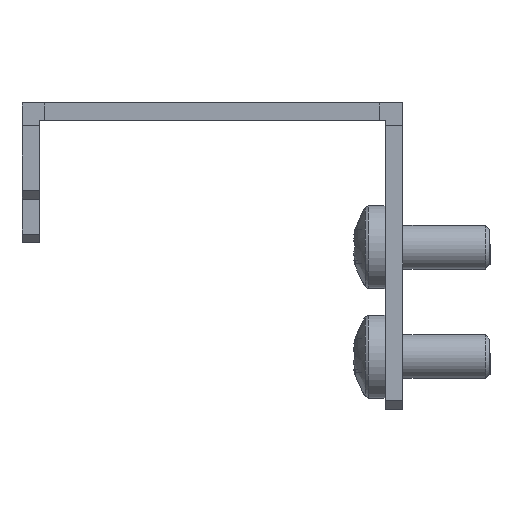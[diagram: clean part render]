
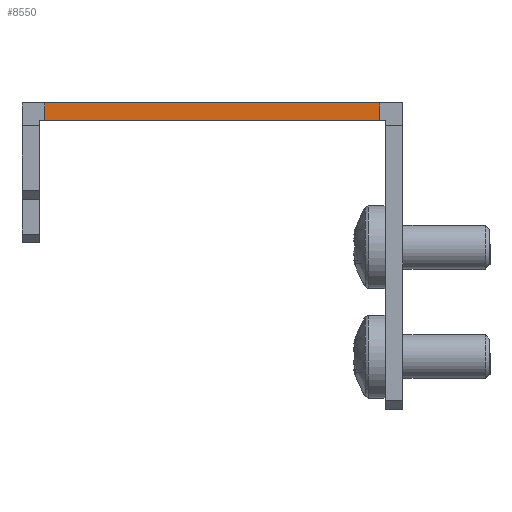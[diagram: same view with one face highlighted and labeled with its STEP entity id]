
A CAD part, left-side view. The second image highlights one B-rep face of the part: STEP entity #8550.
In plain terms, the highlighted planar face has unit normal (-1, 0, 0) as drawn and (1, 0, 0) by its records, which use the part's own axes.
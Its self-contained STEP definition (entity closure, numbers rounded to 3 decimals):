
#5970 = VERTEX_POINT('',#5971);
#5971 = CARTESIAN_POINT('',(281.,19.15,-2.));
#5977 = EDGE_CURVE('',#5978,#5970,#5980,.T.);
#5978 = VERTEX_POINT('',#5979);
#5979 = CARTESIAN_POINT('',(281.,-19.15,-2.));
#5980 = LINE('',#5981,#5982);
#5981 = CARTESIAN_POINT('',(281.,-21.75,-2.));
#5982 = VECTOR('',#5983,1.);
#5983 = DIRECTION('',(0.,1.,0.));
#8270 = VERTEX_POINT('',#8271);
#8271 = CARTESIAN_POINT('',(281.,-19.15,0.));
#8277 = EDGE_CURVE('',#8270,#8278,#8280,.T.);
#8278 = VERTEX_POINT('',#8279);
#8279 = CARTESIAN_POINT('',(281.,19.15,0.));
#8280 = LINE('',#8281,#8282);
#8281 = CARTESIAN_POINT('',(281.,-21.75,0.));
#8282 = VECTOR('',#8283,1.);
#8283 = DIRECTION('',(0.,1.,0.));
#8550 = ADVANCED_FACE('',(#8551),#8567,.T.);
#8551 = FACE_BOUND('',#8552,.T.);
#8552 = EDGE_LOOP('',(#8553,#8559,#8560,#8566));
#8553 = ORIENTED_EDGE('',*,*,#8554,.F.);
#8554 = EDGE_CURVE('',#5978,#8270,#8555,.T.);
#8555 = LINE('',#8556,#8557);
#8556 = CARTESIAN_POINT('',(281.,-19.15,-2.));
#8557 = VECTOR('',#8558,1.);
#8558 = DIRECTION('',(0.,0.,1.));
#8559 = ORIENTED_EDGE('',*,*,#5977,.T.);
#8560 = ORIENTED_EDGE('',*,*,#8561,.T.);
#8561 = EDGE_CURVE('',#5970,#8278,#8562,.T.);
#8562 = LINE('',#8563,#8564);
#8563 = CARTESIAN_POINT('',(281.,19.15,-2.));
#8564 = VECTOR('',#8565,1.);
#8565 = DIRECTION('',(0.,0.,1.));
#8566 = ORIENTED_EDGE('',*,*,#8277,.F.);
#8567 = PLANE('',#8568);
#8568 = AXIS2_PLACEMENT_3D('',#8569,#8570,#8571);
#8569 = CARTESIAN_POINT('',(281.,-21.75,-2.));
#8570 = DIRECTION('',(1.,0.,0.));
#8571 = DIRECTION('',(0.,0.,-1.));
